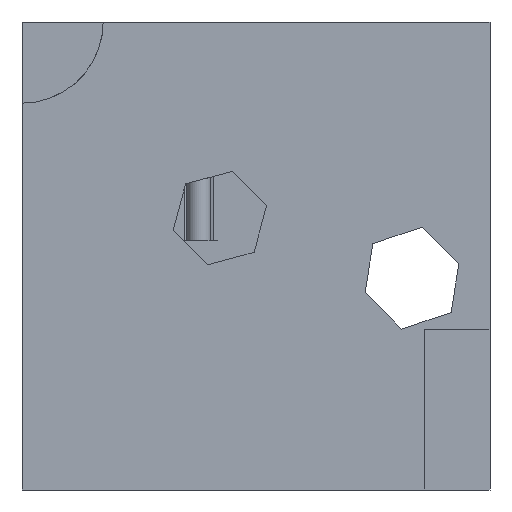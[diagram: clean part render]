
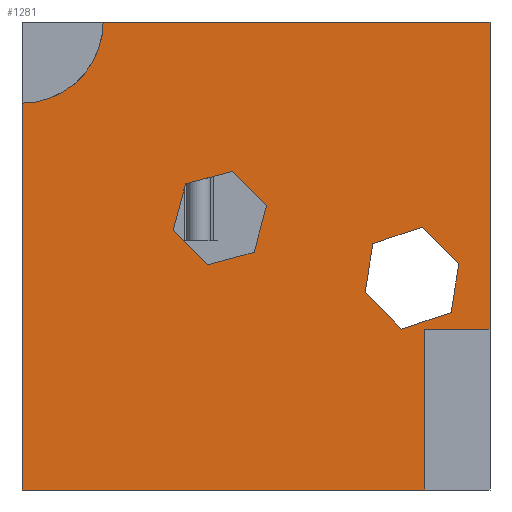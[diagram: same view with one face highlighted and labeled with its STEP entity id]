
A CAD part, front view. The second image highlights one B-rep face of the part: STEP entity #1281.
In plain terms, the highlighted planar face has unit normal (0, -1, 0).
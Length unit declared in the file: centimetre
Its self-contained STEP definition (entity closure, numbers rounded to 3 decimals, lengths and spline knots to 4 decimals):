
#9 = EDGE_CURVE ( 'NONE', #134, #260, #1242, .T. ) ;
#17 = EDGE_CURVE ( 'NONE', #1144, #643, #876, .T. ) ;
#20 = VECTOR ( 'NONE', #323, 100. ) ;
#23 = LINE ( 'NONE', #395, #325 ) ;
#56 = CARTESIAN_POINT ( 'NONE',  ( 0., 0., 1000. ) ) ;
#57 = VERTEX_POINT ( 'NONE', #791 ) ;
#70 = EDGE_CURVE ( 'NONE', #1417, #661, #1041, .T. ) ;
#80 = LINE ( 'NONE', #1549, #1323 ) ;
#101 = CARTESIAN_POINT ( 'NONE',  ( 811.6533, 0., 343.728 ) ) ;
#111 = VERTEX_POINT ( 'NONE', #1003 ) ;
#127 = ORIENTED_EDGE ( 'NONE', *, *, #798, .T. ) ;
#133 = CARTESIAN_POINT ( 'NONE',  ( 811.6533, 0., 343.728 ) ) ;
#134 = VERTEX_POINT ( 'NONE', #1055 ) ;
#146 = VECTOR ( 'NONE', #1083, 100. ) ;
#161 = LINE ( 'NONE', #133, #291 ) ;
#162 = CARTESIAN_POINT ( 'NONE',  ( 0., 0., 1000. ) ) ;
#182 = ORIENTED_EDGE ( 'NONE', *, *, #970, .F. ) ;
#189 = CARTESIAN_POINT ( 'NONE',  ( 860.545, 0., 343.4935 ) ) ;
#199 = ORIENTED_EDGE ( 'NONE', *, *, #70, .F. ) ;
#227 = EDGE_CURVE ( 'NONE', #260, #1487, #80, .T. ) ;
#230 = ORIENTED_EDGE ( 'NONE', *, *, #1231, .F. ) ;
#231 = CARTESIAN_POINT ( 'NONE',  ( 860.545, 0., 343.4935 ) ) ;
#244 = CARTESIAN_POINT ( 'NONE',  ( 449.5152, 0., 680.9912 ) ) ;
#253 = LINE ( 'NONE', #741, #1086 ) ;
#260 = VERTEX_POINT ( 'NONE', #283 ) ;
#283 = CARTESIAN_POINT ( 'NONE',  ( 916.9592, 0., 379.5076 ) ) ;
#285 = CARTESIAN_POINT ( 'NONE',  ( 749.6811, 0., 526.1231 ) ) ;
#291 = VECTOR ( 'NONE', #1127, 100. ) ;
#296 = VECTOR ( 'NONE', #391, 100. ) ;
#305 = VERTEX_POINT ( 'NONE', #650 ) ;
#318 = EDGE_CURVE ( 'NONE', #404, #134, #1141, .T. ) ;
#323 = DIRECTION ( 'NONE',  ( 1., 0., 0. ) ) ;
#325 = VECTOR ( 'NONE', #1346, 100. ) ;
#330 = VERTEX_POINT ( 'NONE', #189 ) ;
#340 = DIRECTION ( 'NONE',  ( 1., 0., 0. ) ) ;
#342 = EDGE_CURVE ( 'NONE', #873, #909, #950, .T. ) ;
#345 = CARTESIAN_POINT ( 'NONE',  ( 495.944, 0., 507.8918 ) ) ;
#387 = ORIENTED_EDGE ( 'NONE', *, *, #342, .T. ) ;
#391 = DIRECTION ( 'NONE',  ( 0.707, 0., -0.707 ) ) ;
#395 = CARTESIAN_POINT ( 'NONE',  ( 522.6699, 0., 607.8365 ) ) ;
#404 = VERTEX_POINT ( 'NONE', #910 ) ;
#406 = CARTESIAN_POINT ( 'NONE',  ( 349.5607, 0., 654.1271 ) ) ;
#412 = CARTESIAN_POINT ( 'NONE',  ( 1000., 0., 1000. ) ) ;
#416 = FACE_OUTER_BOUND ( 'NONE', #1087, .T. ) ;
#465 = DIRECTION ( 'NONE',  ( -0.947, 0., -0.322 ) ) ;
#481 = EDGE_CURVE ( 'NONE', #959, #1246, #797, .T. ) ;
#499 = VECTOR ( 'NONE', #925, 100. ) ;
#508 = CARTESIAN_POINT ( 'NONE',  ( 322.8348, 0., 554.1824 ) ) ;
#516 = DIRECTION ( 'NONE',  ( 0., 0., -1. ) ) ;
#517 = VERTEX_POINT ( 'NONE', #836 ) ;
#521 = DIRECTION ( 'NONE',  ( 0., 0., -1. ) ) ;
#526 = CARTESIAN_POINT ( 'NONE',  ( 1000., 0., 343.4935 ) ) ;
#528 = ORIENTED_EDGE ( 'NONE', *, *, #978, .F. ) ;
#536 = ORIENTED_EDGE ( 'NONE', *, *, #1415, .F. ) ;
#543 = PLANE ( 'NONE',  #1138 ) ;
#562 = ORIENTED_EDGE ( 'NONE', *, *, #932, .F. ) ;
#569 = CARTESIAN_POINT ( 'NONE',  ( 733.18, 0., 422.2013 ) ) ;
#597 = VECTOR ( 'NONE', #866, 100. ) ;
#624 = ORIENTED_EDGE ( 'NONE', *, *, #1179, .T. ) ;
#625 = LINE ( 'NONE', #56, #964 ) ;
#634 = VERTEX_POINT ( 'NONE', #345 ) ;
#638 = DIRECTION ( 'NONE',  ( -0.157, 0., -0.988 ) ) ;
#643 = VERTEX_POINT ( 'NONE', #1441 ) ;
#650 = CARTESIAN_POINT ( 'NONE',  ( 0., 0., 0. ) ) ;
#659 = CARTESIAN_POINT ( 'NONE',  ( 733.18, 0., 422.2013 ) ) ;
#661 = VERTEX_POINT ( 'NONE', #1185 ) ;
#663 = CARTESIAN_POINT ( 'NONE',  ( 749.6811, 0., 526.1231 ) ) ;
#669 = ORIENTED_EDGE ( 'NONE', *, *, #1211, .T. ) ;
#703 = DIRECTION ( 'NONE',  ( 0., 0., -1. ) ) ;
#725 = VECTOR ( 'NONE', #984, 100. ) ;
#737 = LINE ( 'NONE', #1250, #725 ) ;
#741 = CARTESIAN_POINT ( 'NONE',  ( 495.944, 0., 507.8918 ) ) ;
#746 = ORIENTED_EDGE ( 'NONE', *, *, #961, .T. ) ;
#749 = EDGE_CURVE ( 'NONE', #517, #1505, #23, .T. ) ;
#773 = EDGE_CURVE ( 'NONE', #1246, #330, #737, .T. ) ;
#776 = LINE ( 'NONE', #508, #296 ) ;
#785 = FACE_BOUND ( 'NONE', #891, .T. ) ;
#791 = CARTESIAN_POINT ( 'NONE',  ( 395.9894, 0., 481.0278 ) ) ;
#797 = LINE ( 'NONE', #412, #1519 ) ;
#798 = EDGE_CURVE ( 'NONE', #1487, #873, #161, .T. ) ;
#823 = LINE ( 'NONE', #1174, #1271 ) ;
#836 = CARTESIAN_POINT ( 'NONE',  ( 522.6699, 0., 607.8365 ) ) ;
#840 = CARTESIAN_POINT ( 'NONE',  ( 0., 0., 826.5571 ) ) ;
#842 = CARTESIAN_POINT ( 'NONE',  ( 449.5152, 0., 680.9912 ) ) ;
#866 = DIRECTION ( 'NONE',  ( 0.947, 0., 0.322 ) ) ;
#873 = VERTEX_POINT ( 'NONE', #569 ) ;
#876 = LINE ( 'NONE', #406, #1516 ) ;
#891 = EDGE_LOOP ( 'NONE', ( #1266, #1527, #1566, #127, #387, #669 ) ) ;
#901 = DIRECTION ( 'NONE',  ( 0., 0., -1. ) ) ;
#909 = VERTEX_POINT ( 'NONE', #663 ) ;
#910 = CARTESIAN_POINT ( 'NONE',  ( 854.987, 0., 561.9027 ) ) ;
#914 = VECTOR ( 'NONE', #638, 100. ) ;
#917 = VECTOR ( 'NONE', #1030, 100. ) ;
#918 = CARTESIAN_POINT ( 'NONE',  ( 0., 0., 1000. ) ) ;
#925 = DIRECTION ( 'NONE',  ( 0.707, 0., -0.707 ) ) ;
#932 = EDGE_CURVE ( 'NONE', #57, #634, #823, .T. ) ;
#941 = FACE_BOUND ( 'NONE', #1212, .T. ) ;
#950 = LINE ( 'NONE', #659, #917 ) ;
#953 = ORIENTED_EDGE ( 'NONE', *, *, #17, .F. ) ;
#959 = VERTEX_POINT ( 'NONE', #1412 ) ;
#961 = EDGE_CURVE ( 'NONE', #305, #111, #1053, .T. ) ;
#964 = VECTOR ( 'NONE', #516, 100. ) ;
#970 = EDGE_CURVE ( 'NONE', #330, #111, #1324, .T. ) ;
#978 = EDGE_CURVE ( 'NONE', #1505, #1144, #1091, .T. ) ;
#984 = DIRECTION ( 'NONE',  ( -1., 0., 0. ) ) ;
#1003 = CARTESIAN_POINT ( 'NONE',  ( 860.545, 0., 0. ) ) ;
#1030 = DIRECTION ( 'NONE',  ( 0.157, 0., 0.988 ) ) ;
#1041 = CIRCLE ( 'NONE', #1297, 173.4429 ) ;
#1050 = DIRECTION ( 'NONE',  ( 0., 0., 1. ) ) ;
#1053 = LINE ( 'NONE', #1418, #20 ) ;
#1055 = CARTESIAN_POINT ( 'NONE',  ( 933.4604, 0., 483.4294 ) ) ;
#1062 = CARTESIAN_POINT ( 'NONE',  ( 0., 0., 1000. ) ) ;
#1081 = ORIENTED_EDGE ( 'NONE', *, *, #481, .F. ) ;
#1083 = DIRECTION ( 'NONE',  ( -0.966, 0., -0.26 ) ) ;
#1086 = VECTOR ( 'NONE', #1498, 100. ) ;
#1087 = EDGE_LOOP ( 'NONE', ( #746, #182, #1378, #1081, #536, #199, #624 ) ) ;
#1091 = LINE ( 'NONE', #842, #146 ) ;
#1127 = DIRECTION ( 'NONE',  ( -0.707, 0., 0.707 ) ) ;
#1128 = DIRECTION ( 'NONE',  ( 0., -1., 0. ) ) ;
#1138 = AXIS2_PLACEMENT_3D ( 'NONE', #918, #1274, #1050 ) ;
#1141 = LINE ( 'NONE', #1503, #499 ) ;
#1144 = VERTEX_POINT ( 'NONE', #1366 ) ;
#1174 = CARTESIAN_POINT ( 'NONE',  ( 395.9894, 0., 481.0278 ) ) ;
#1179 = EDGE_CURVE ( 'NONE', #1417, #305, #625, .T. ) ;
#1185 = CARTESIAN_POINT ( 'NONE',  ( 173.4429, 0., 1000. ) ) ;
#1189 = LINE ( 'NONE', #1062, #1447 ) ;
#1211 = EDGE_CURVE ( 'NONE', #909, #404, #1475, .T. ) ;
#1212 = EDGE_LOOP ( 'NONE', ( #1410, #1515, #562, #230, #953, #528 ) ) ;
#1231 = EDGE_CURVE ( 'NONE', #643, #57, #776, .T. ) ;
#1242 = LINE ( 'NONE', #1479, #914 ) ;
#1246 = VERTEX_POINT ( 'NONE', #526 ) ;
#1250 = CARTESIAN_POINT ( 'NONE',  ( 860.545, 0., 343.4935 ) ) ;
#1254 = EDGE_CURVE ( 'NONE', #634, #517, #253, .T. ) ;
#1266 = ORIENTED_EDGE ( 'NONE', *, *, #318, .T. ) ;
#1271 = VECTOR ( 'NONE', #1547, 100. ) ;
#1274 = DIRECTION ( 'NONE',  ( 0., 1., 0. ) ) ;
#1279 = DIRECTION ( 'NONE',  ( -0.258, 0., -0.966 ) ) ;
#1281 = ADVANCED_FACE ( 'NONE', ( #785, #941, #416 ), #543, .F. ) ;
#1297 = AXIS2_PLACEMENT_3D ( 'NONE', #162, #1128, #521 ) ;
#1323 = VECTOR ( 'NONE', #465, 100. ) ;
#1324 = LINE ( 'NONE', #231, #1494 ) ;
#1346 = DIRECTION ( 'NONE',  ( -0.707, 0., 0.707 ) ) ;
#1366 = CARTESIAN_POINT ( 'NONE',  ( 349.5607, 0., 654.1271 ) ) ;
#1378 = ORIENTED_EDGE ( 'NONE', *, *, #773, .F. ) ;
#1410 = ORIENTED_EDGE ( 'NONE', *, *, #749, .F. ) ;
#1412 = CARTESIAN_POINT ( 'NONE',  ( 1000., 0., 1000. ) ) ;
#1415 = EDGE_CURVE ( 'NONE', #661, #959, #1189, .T. ) ;
#1417 = VERTEX_POINT ( 'NONE', #840 ) ;
#1418 = CARTESIAN_POINT ( 'NONE',  ( 0., 0., 0. ) ) ;
#1441 = CARTESIAN_POINT ( 'NONE',  ( 322.8348, 0., 554.1824 ) ) ;
#1447 = VECTOR ( 'NONE', #340, 100. ) ;
#1475 = LINE ( 'NONE', #285, #597 ) ;
#1479 = CARTESIAN_POINT ( 'NONE',  ( 933.4604, 0., 483.4294 ) ) ;
#1487 = VERTEX_POINT ( 'NONE', #101 ) ;
#1494 = VECTOR ( 'NONE', #703, 100. ) ;
#1498 = DIRECTION ( 'NONE',  ( 0.258, 0., 0.966 ) ) ;
#1503 = CARTESIAN_POINT ( 'NONE',  ( 854.987, 0., 561.9027 ) ) ;
#1505 = VERTEX_POINT ( 'NONE', #244 ) ;
#1515 = ORIENTED_EDGE ( 'NONE', *, *, #1254, .F. ) ;
#1516 = VECTOR ( 'NONE', #1279, 100. ) ;
#1519 = VECTOR ( 'NONE', #901, 100. ) ;
#1527 = ORIENTED_EDGE ( 'NONE', *, *, #9, .T. ) ;
#1547 = DIRECTION ( 'NONE',  ( 0.966, 0., 0.26 ) ) ;
#1549 = CARTESIAN_POINT ( 'NONE',  ( 916.9592, 0., 379.5076 ) ) ;
#1566 = ORIENTED_EDGE ( 'NONE', *, *, #227, .T. ) ;
